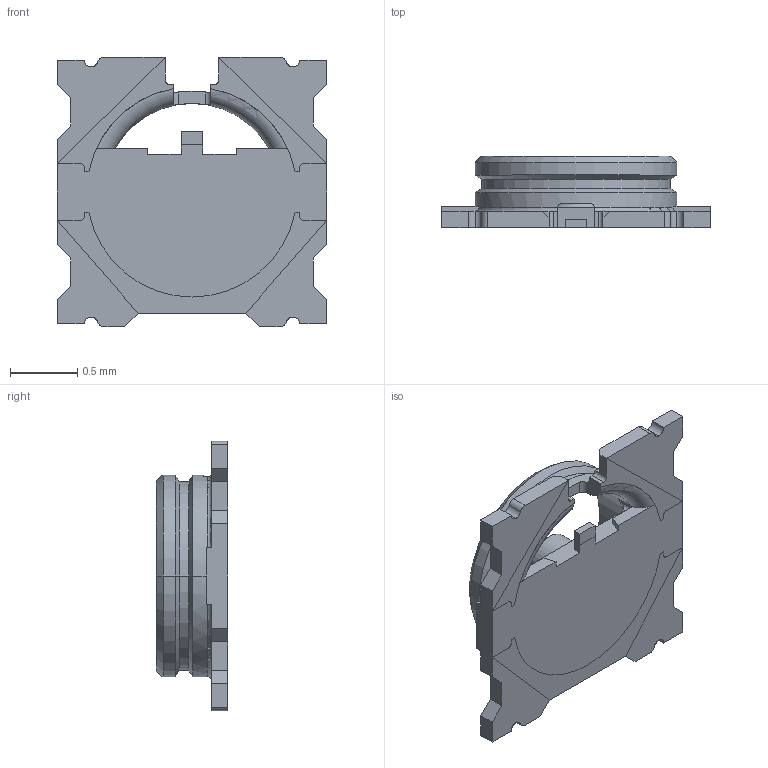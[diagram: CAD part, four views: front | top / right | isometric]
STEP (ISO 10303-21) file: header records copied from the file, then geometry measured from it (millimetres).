
FILE_DESCRIPTION (( 'STEP AP203' ), '1' );
FILE_NAME ('20981-001E-02C RECEPTACLE STEP R1 ALL.STEP', '2020-07-15T22:05:21', ( '' ), ( '' ), 'SwSTEP 2.0', 'SolidWorks 2017', '' );
FILE_SCHEMA (( 'CONFIG_CONTROL_DESIGN' ));
Length unit declared in the file: millimetre
Products named in the file (1): 20981-001E-02C RECEPTACLE STEP R1 ALL
Bounding box: 2 x 0.53 x 2 mm (x, y, z)
Surface area: 13.5 mm2 (no closed solid volume)
Topology: 0 solids, 4 shells, 133 faces, 422 edges, 294 vertices
Faces by surface type: plane 83, cylinder 29, torus 13, cone 8
Entity records: 5044 total; most frequent: CARTESIAN_POINT 1214, ORIENTED_EDGE 778, DIRECTION 766, EDGE_CURVE 422, VERTEX_POINT 294, VECTOR 292, LINE 292, AXIS2_PLACEMENT_3D 237
